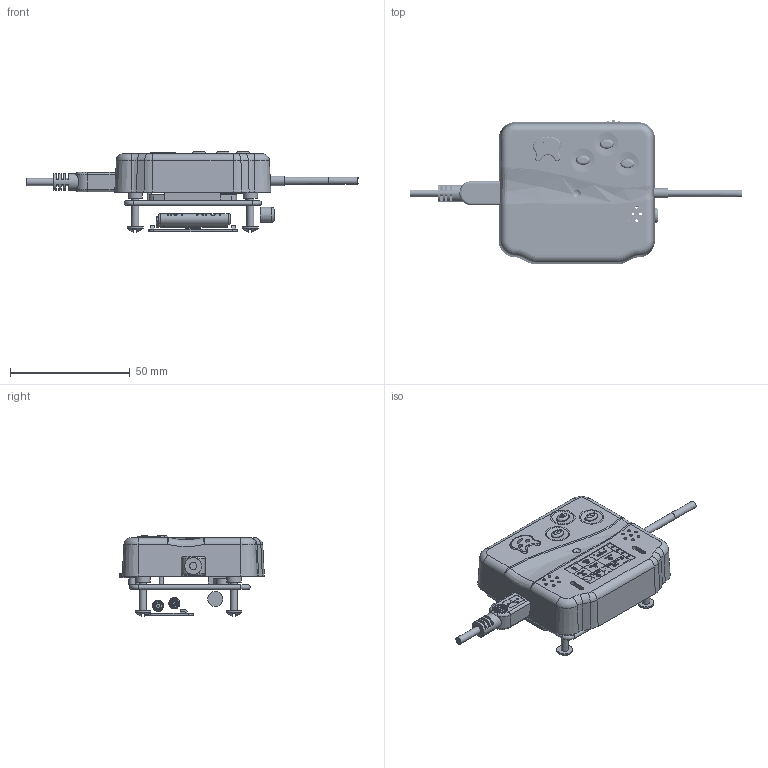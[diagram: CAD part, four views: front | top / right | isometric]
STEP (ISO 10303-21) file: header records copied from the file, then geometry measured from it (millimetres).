
FILE_DESCRIPTION(/* description */ (''),/* implementation_level */ '2;1');
FILE_NAME(/* name */ '样题5.stp',/* time_stamp */ '2021-12-05T11:11:58+08:00',/* author */ (''),/* organization */ (''),/* preprocessor_version */ 'ST-DEVELOPER v16',/* originating_system */ 'SIEMENS PLM Software NX 10.0',/* authorisation */ '');
FILE_SCHEMA (('AUTOMOTIVE_DESIGN { 1 0 10303 214 3 1 1 1 }'));
Products named in the file (24): 行车记录仪屏幕; 按键电路板; 固定柱02; 方向键右; 关机键; 方向键左; 电路板; 电子元件; 确认键; 固定柱01; 紧固螺钉01; 紧固螺钉04; 紧固螺钉02; 紧固螺钉03; 拨轮按键; 耳机线; 保护套02; USB线; 前盖; 按键; 电池01; 电池02; 电池盖板; 样题5
Assembly tree (23 placements, depth 2):
  样题5
    电池盖板
    电池02
    电池01
    按键
    前盖
    USB线
    保护套02
    耳机线
    拨轮按键
    紧固螺钉03
    紧固螺钉02
    紧固螺钉04
    紧固螺钉01
    固定柱01
    确认键
    电子元件
    电路板
    方向键左
    关机键
    方向键右
    固定柱02
    按键电路板
    行车记录仪屏幕
Bounding box: 138.44 x 60.33 x 33.5 mm (x, y, z)
Volume: 26911.6 mm3; surface area: 31030.2 mm2
Topology: 23 solids, 24 shells, 3476 faces, 9215 edges, 6118 vertices
Faces by surface type: plane 2349, cylinder 824, extrusion 156, torus 71, bspline 37, cone 29, sphere 10
Full cylindrical faces by diameter (mm): 0.032 x1, 0.116 x1, 0.197 x1, 0.336 x1, 0.523 x1, 0.543 x1, 0.878 x1, 1.142 x1, 1.2 x14, 1.705 x1, 1.825 x2, 1.932 x1, 2.91 x3, 3 x86, 3.321 x4, 3.344 x4, 3.4 x4, 3.5 x2, 4 x1, 4.645 x2, 6 x4, 6.306 x1, 6.6 x4, 7 x1, 7.767 x1
Entity records: 139776 total; most frequent: CARTESIAN_POINT 55277, ORIENTED_EDGE 17522, DIRECTION 16031, EDGE_CURVE 8761, VECTOR 6527, LINE 6371, VERTEX_POINT 5881, AXIS2_PLACEMENT_3D 4752
